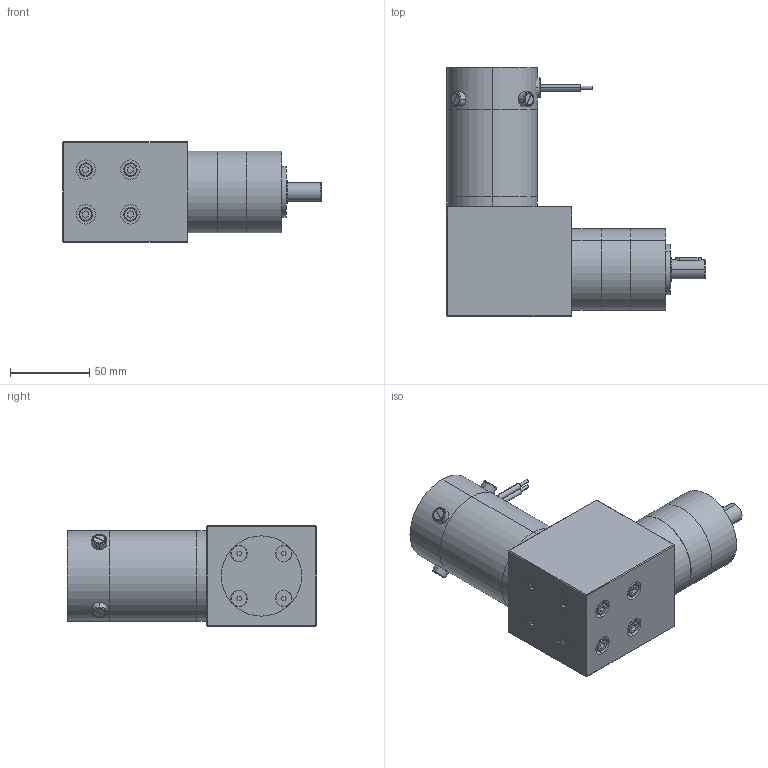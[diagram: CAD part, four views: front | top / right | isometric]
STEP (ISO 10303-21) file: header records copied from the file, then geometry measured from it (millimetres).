
FILE_DESCRIPTION (( 'STEP AP203' ), '1' );
FILE_NAME ('s22346gra2.step', '2018-12-07T19:59:09', ( '' ), ( '' ), 'SwSTEP 2.0', 'SolidWorks 2017', '' );
FILE_SCHEMA (( 'CONFIG_CONTROL_DESIGN' ));
Length unit declared in the file: inch
Products named in the file (1): s22346gra2
Bounding box: 163.27 x 157.68 x 63.5 mm (x, y, z)
Volume: 695293.6 mm3; surface area: 114989.6 mm2
Topology: 26 solids, 26 shells, 997 faces, 2209 edges, 1330 vertices
Faces by surface type: cylinder 356, cone 329, plane 293, torus 11, sphere 8
Entity records: 27896 total; most frequent: DIRECTION 5267, CARTESIAN_POINT 4987, ORIENTED_EDGE 4386, EDGE_CURVE 2193, AXIS2_PLACEMENT_3D 2096, VERTEX_POINT 1330, EDGE_LOOP 1121, CIRCLE 1098
